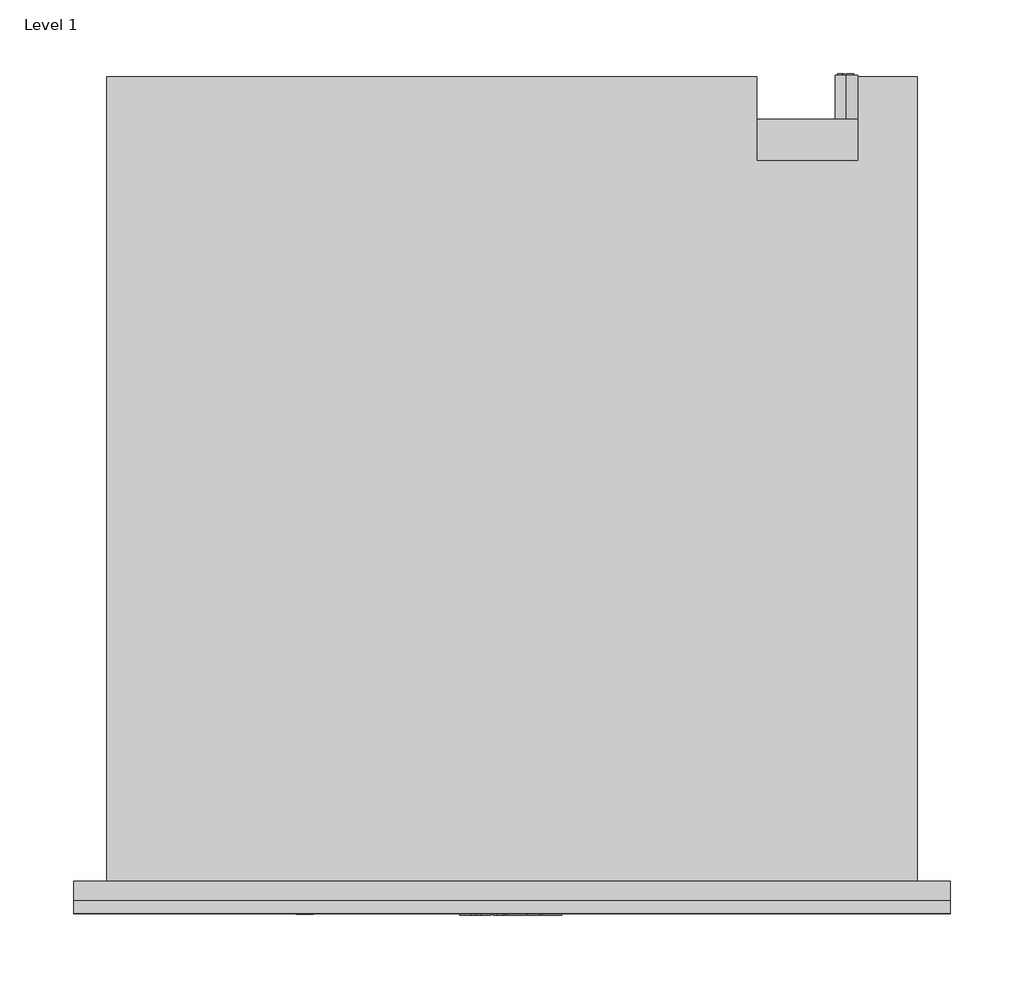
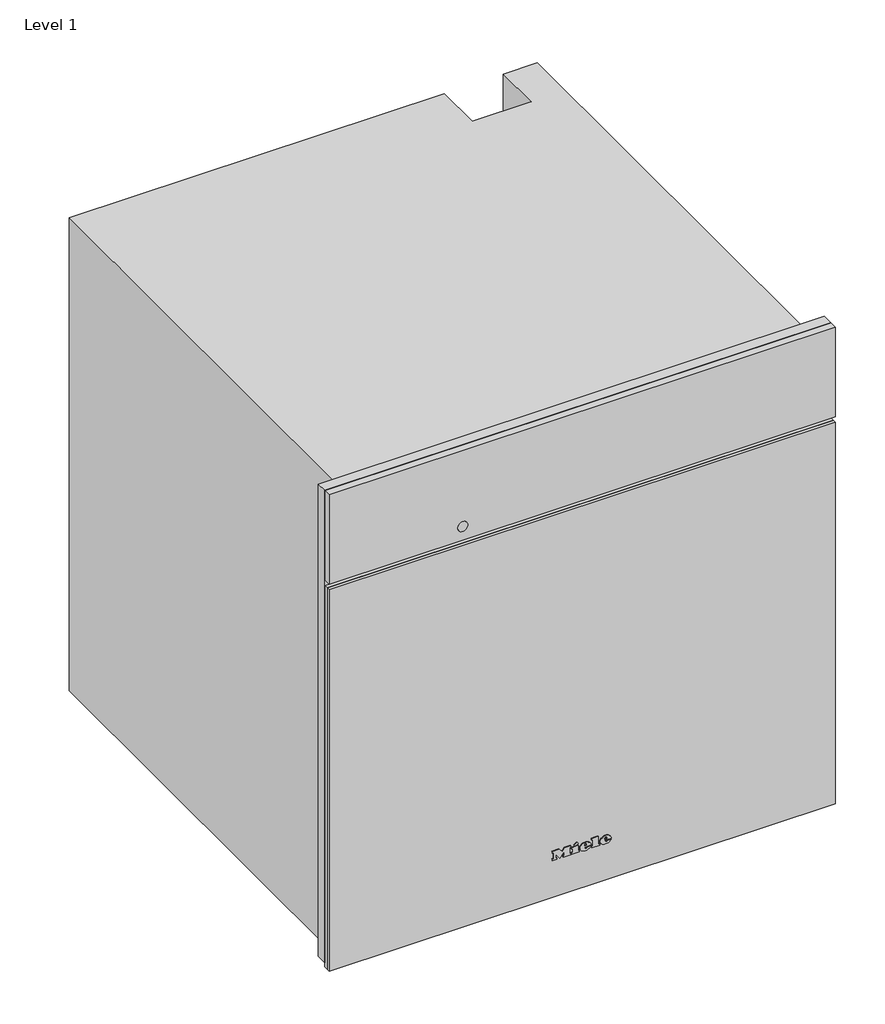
# One storey: 1 proxy.
"""IFC4 building model written with IfcOpenShell, lengths in millimetres."""

import ifcopenshell
import ifcopenshell.guid

model = None  # the IFC model being written
_history = None  # IfcOwnerHistory: only IFC2X3 demands one
_inside = {}  # id of a spatial element -> (the spatial element, [elements in it])
_under = {}  # id of a project, library or spatial element -> (it, [spatial elements below it])
_declared = {}  # id of a project -> (the project, [libraries it declares])
_typed = {}  # id of a type object -> (the type object, [elements of that type])
_made_of = {}  # id of a material, layer set ... -> (it, [elements and type objects made of it])


def new_model(schema):
    """Start an empty IFC model of exactly this schema.

    Asked for "IFC4X3", IfcOpenShell would pick the latest addendum, in which some entities
    have other attributes; the version numbers below select the first issue.
    IFC2X3 requires an IfcOwnerHistory on every rooted entity: one is made here for all.
    """
    global model, _history
    if schema == "IFC4X3":
        model = ifcopenshell.file(schema_version=(4, 3, 0, 0))
    else:
        model = ifcopenshell.file(schema=schema)
    _inside.clear()
    _under.clear()
    _declared.clear()
    _typed.clear()
    _made_of.clear()
    _history = None
    if model.schema == "IFC2X3":
        org = make("IfcOrganization", Name="unknown")
        user = make(
            "IfcPersonAndOrganization",
            ThePerson=make("IfcPerson", FamilyName="unknown"),
            TheOrganization=org,
        )
        app = make(
            "IfcApplication",
            ApplicationDeveloper=org,
            Version="unknown",
            ApplicationFullName="unknown",
            ApplicationIdentifier="unknown",
        )
        _history = make(
            "IfcOwnerHistory",
            OwningUser=user,
            OwningApplication=app,
            ChangeAction="ADDED",
            CreationDate=0,
        )
    return model


def make(cls, **values):
    """One entity of the class cls with the attributes given. An attribute that is None is left unset."""
    return model.create_entity(
        cls, **{name: value for name, value in values.items() if value is not None}
    )


def rooted(cls, **values):
    """An entity with a GlobalId (a new one), such as an element, a storey or a relation."""
    return make(cls, GlobalId=ifcopenshell.guid.new(), OwnerHistory=_history, **values)


def si_unit(unit_type, name, prefix=None):
    """IfcSIUnit, for example si_unit("LENGTHUNIT", "METRE", prefix="MILLI")."""
    return make("IfcSIUnit", UnitType=unit_type, Prefix=prefix, Name=name)


def assignment(units):
    """IfcUnitAssignment: the units of a project."""
    return None if units is None else make("IfcUnitAssignment", Units=units)


def point(xyz):
    """IfcCartesianPoint."""
    return None if xyz is None else make("IfcCartesianPoint", Coordinates=xyz)


def direction(xyz):
    """IfcDirection."""
    return None if xyz is None else make("IfcDirection", DirectionRatios=xyz)


def frame(location, z_axis=None, x_axis=None):
    """IfcAxis2Placement3D, a coordinate frame: its origin and axes. An axis left out is left unset."""
    return make(
        "IfcAxis2Placement3D",
        Location=point(location),
        Axis=direction(z_axis),
        RefDirection=direction(x_axis),
    )


def frame_2d(location, x_axis=None):
    """IfcAxis2Placement2D, a coordinate frame in the plane: its origin and x axis."""
    return make(
        "IfcAxis2Placement2D", Location=point(location), RefDirection=direction(x_axis)
    )


def origin():
    """The frame at (0, 0, 0) with its axes left unset."""
    return frame((0.0, 0.0, 0.0))


def place(relative_to, where):
    """IfcLocalPlacement: puts the frame where relative to a parent placement (None: the world)."""
    return make(
        "IfcLocalPlacement", PlacementRelTo=relative_to, RelativePlacement=where
    )


def context(
    kind, dimensions, precision=None, world=None, true_north=None, identifier=None
):
    """IfcGeometricRepresentationContext, for example the 3D "Model" context."""
    return make(
        "IfcGeometricRepresentationContext",
        ContextIdentifier=identifier,
        ContextType=kind,
        CoordinateSpaceDimension=dimensions,
        Precision=precision,
        WorldCoordinateSystem=world,
        TrueNorth=true_north,
    )


def project(units=None, contexts=None):
    """IfcProject with its units and contexts."""
    return rooted(
        "IfcProject",
        Name="project",
        RepresentationContexts=contexts,
        UnitsInContext=assignment(units),
    )


def spatial(cls, under=None, at=None, **own):
    """A site, building, storey or space (cls), placed at a placement, below another one or the project."""
    s = rooted(cls, ObjectPlacement=at, **own)
    if under is not None:
        _under.setdefault(under.id(), (under, []))[1].append(s)
    return s


def polyline(points):
    """IfcPolyline through the points."""
    return make("IfcPolyline", Points=[point(p) for p in points])


def circle_curve(where, radius):
    """IfcCircle in the frame where."""
    return make("IfcCircle", Position=where, Radius=radius)


def ellipse_curve(where, semi_axis1, semi_axis2):
    """IfcEllipse in the frame where."""
    return make(
        "IfcEllipse", Position=where, SemiAxis1=semi_axis1, SemiAxis2=semi_axis2
    )


def trimmed(basis, trim1, trim2, sense, master):
    """IfcTrimmedCurve: the piece of a basis curve between two trims."""
    return make(
        "IfcTrimmedCurve",
        BasisCurve=basis,
        Trim1=trim1,
        Trim2=trim2,
        SenseAgreement=sense,
        MasterRepresentation=master,
    )


def segment(curve, same_sense, transition):
    """IfcCompositeCurveSegment."""
    return make(
        "IfcCompositeCurveSegment",
        Transition=transition,
        SameSense=same_sense,
        ParentCurve=curve,
    )


def composite_curve(segments, self_intersect=None):
    """IfcCompositeCurve: segments joined end to end."""
    return make("IfcCompositeCurve", Segments=segments, SelfIntersect=self_intersect)


def outline(outer, holes=None, kind="AREA"):
    """IfcArbitraryClosedProfileDef: a profile drawn as a closed curve; with holes, ...WithVoids."""
    if holes is None:
        return make("IfcArbitraryClosedProfileDef", ProfileType=kind, OuterCurve=outer)
    return make(
        "IfcArbitraryProfileDefWithVoids",
        ProfileType=kind,
        OuterCurve=outer,
        InnerCurves=holes,
    )


def extrude(swept, where, along, depth):
    """IfcExtrudedAreaSolid: the profile swept, set in the frame where, extruded along a direction by depth."""
    return make(
        "IfcExtrudedAreaSolid",
        SweptArea=swept,
        Position=where,
        ExtrudedDirection=direction(along),
        Depth=depth,
    )


def faces_of(points, faces, orient=None, outer=None):
    """IfcFace entities. A face is a list of loops; a loop is a list of indices into points, from 0.

    orient and outer hold one flag for each loop. By default every Orientation is true, the
    first loop of a face is its IfcFaceOuterBound and the others are IfcFaceBound.
    """
    made = []
    for i, loops in enumerate(faces):
        bounds = []
        for j, loop in enumerate(loops):
            is_outer = j == 0 if outer is None else outer[i][j]
            bounds.append(
                make(
                    "IfcFaceOuterBound" if is_outer else "IfcFaceBound",
                    Bound=make("IfcPolyLoop", Polygon=[points[k] for k in loop]),
                    Orientation=True if orient is None else orient[i][j],
                )
            )
        made.append(make("IfcFace", Bounds=bounds))
    return made


def faceted_brep(points, faces, orient=None, outer=None, voids=None):
    """IfcFacetedBrep: a solid bounded by flat faces; with voids (closed shells), ...WithVoids."""
    shared = [point(p) for p in points]
    hull = make("IfcClosedShell", CfsFaces=faces_of(shared, faces, orient, outer))
    if voids is None:
        return make("IfcFacetedBrep", Outer=hull)
    return make(
        "IfcFacetedBrepWithVoids",
        Outer=hull,
        Voids=[
            make(cls, CfsFaces=faces_of(shared, fs, o, b)) for cls, fs, o, b in voids
        ],
    )


def shape(context_of_items, identifier, shape_type, items):
    """IfcShapeRepresentation: the items that make up one representation, for example the "Body"."""
    return make(
        "IfcShapeRepresentation",
        ContextOfItems=context_of_items,
        RepresentationIdentifier=identifier,
        RepresentationType=shape_type,
        Items=items,
    )


def source(mapping_origin, context_of_items, identifier, shape_type, items):
    """IfcRepresentationMap: a shape defined once, which mapped items show again and again."""
    return make(
        "IfcRepresentationMap",
        MappingOrigin=mapping_origin,
        MappedRepresentation=shape(context_of_items, identifier, shape_type, items),
    )


def transform(
    local_origin,
    x_axis=None,
    y_axis=None,
    z_axis=None,
    scale=None,
    scale2=None,
    scale3=None,
    uniform=True,
):
    """IfcCartesianTransformationOperator3D, or its non-uniform kind. x_axis, y_axis, z_axis: its Axis1, 2, 3."""
    if uniform:
        return make(
            "IfcCartesianTransformationOperator3D",
            Axis1=direction(x_axis),
            Axis2=direction(y_axis),
            LocalOrigin=point(local_origin),
            Scale=scale,
            Axis3=direction(z_axis),
        )
    return make(
        "IfcCartesianTransformationOperator3DnonUniform",
        Axis1=direction(x_axis),
        Axis2=direction(y_axis),
        LocalOrigin=point(local_origin),
        Scale=scale,
        Axis3=direction(z_axis),
        Scale2=scale2,
        Scale3=scale3,
    )


def mapped(mapping_source, mapping_target):
    """IfcMappedItem: shows the shape of a source again, moved by a transform."""
    return make(
        "IfcMappedItem", MappingSource=mapping_source, MappingTarget=mapping_target
    )


def made_of(thing, what):
    """Note that an element or type object is made of a material, layer set ...; save() writes the relation."""
    if what is not None:
        _made_of.setdefault(what.id(), (what, []))[1].append(thing)
    return thing


def element(
    cls,
    number,
    at=None,
    inside=None,
    cuts=None,
    type_object=None,
    material=None,
    context=None,
    identifier="Body",
    shape_type=None,
    held_by="IfcProductDefinitionShape",
    body=None,
    shapes=None,
    **own,
):
    """One element of the class cls, such as IfcWall. Its Tag is "e" and its number.

    at: its placement. inside: the storey or other place that contains it. cuts: it is an
    opening in that element (IfcRelVoidsElement). A single representation is given by context,
    identifier, shape_type and body (its items); several are given by shapes. held_by: the class
    of the entity that holds the representations. save() writes the other relations.
    """
    e = rooted(cls, Tag="e%d" % number, ObjectPlacement=at, **own)
    if body is not None:
        shapes = [shape(context, identifier, shape_type, body)]
    if shapes is not None:
        e.Representation = make(held_by, Representations=shapes)
    if inside is not None:
        _inside.setdefault(inside.id(), (inside, []))[1].append(e)
    if cuts is not None:
        rooted(
            "IfcRelVoidsElement", RelatingBuildingElement=cuts, RelatedOpeningElement=e
        )
    if type_object is not None:
        _typed.setdefault(type_object.id(), (type_object, []))[1].append(e)
    return made_of(e, material)


def aggregate(whole, parts):
    """IfcRelAggregates: a whole, such as a stair, and the parts it consists of."""
    return rooted("IfcRelAggregates", RelatingObject=whole, RelatedObjects=parts)


def save(model, path):
    """Write the relations noted so far, then the file.

    IfcRelAggregates (storeys below a building ...), IfcRelContainedInSpatialStructure (elements
    in a storey), IfcRelDefinesByType, IfcRelAssociatesMaterial and IfcRelDeclares: one each for
    every whole, place, type object, material and project.
    """
    for whole, parts in _under.values():
        aggregate(whole, parts)
    for where, things in _inside.values():
        rooted(
            "IfcRelContainedInSpatialStructure",
            RelatedElements=things,
            RelatingStructure=where,
        )
    for kind, things in _typed.values():
        rooted("IfcRelDefinesByType", RelatedObjects=things, RelatingType=kind)
    for what, things in _made_of.values():
        rooted("IfcRelAssociatesMaterial", RelatedObjects=things, RelatingMaterial=what)
    for by, libraries in _declared.values():
        rooted("IfcRelDeclares", RelatingContext=by, RelatedDefinitions=libraries)
    model.write(path)


def plane_surface(at):
    """IfcPlane: the flat surface through the origin of the frame at, square to its z axis."""
    return make("IfcPlane", Position=at)


def cylinder_surface(at, radius):
    """IfcCylindricalSurface: all points at the distance radius from the z axis of the frame at."""
    return make("IfcCylindricalSurface", Position=at, Radius=radius)


def revolved_surface(curve, axis_point, axis_direction):
    """IfcSurfaceOfRevolution: the curve turned about the line through axis_point along axis_direction."""
    return make(
        "IfcSurfaceOfRevolution",
        SweptCurve=make("IfcArbitraryOpenProfileDef", ProfileType="CURVE", Curve=curve),
        AxisPosition=make("IfcAxis1Placement", Location=point(axis_point), Axis=direction(axis_direction)),
    )


def extruded_surface(curve, direction_of_extrusion, depth):
    """IfcSurfaceOfLinearExtrusion: the curve pushed along a direction by depth."""
    return make(
        "IfcSurfaceOfLinearExtrusion",
        SweptCurve=make("IfcArbitraryOpenProfileDef", ProfileType="CURVE", Curve=curve),
        ExtrudedDirection=direction(direction_of_extrusion),
        Depth=depth,
    )


def advanced_brep(points, edges, surfaces, faces):
    """IfcAdvancedBrep: a solid bounded by faces that lie on surfaces and meet in shared edges.

    An edge is (start, end): straight between two places in points (the first is 0);
    or (start, end, curve); or (start, end, curve, False) where it runs against its curve.
    A face is (place in surfaces, loops), or (place, loops, False) where it looks against
    its surface's normal. A loop lists edges by number (the first is 1), with a minus sign
    where the edge is run from its end to its start. The first loop is the outer one.
    """
    corners = [point(p) for p in points]
    vertices = [make("IfcVertexPoint", VertexGeometry=c) for c in corners]
    made = []
    for start, end, *more in edges:
        made.append(
            make(
                "IfcEdgeCurve",
                EdgeStart=vertices[start],
                EdgeEnd=vertices[end],
                EdgeGeometry=more[0] if more else make("IfcPolyline", Points=[corners[start], corners[end]]),
                SameSense=more[1] if len(more) > 1 else True,
            )
        )
    hull = []
    for where, loops, *sense in faces:
        bounds = []
        for j, loop in enumerate(loops):
            ring = [make("IfcOrientedEdge", EdgeElement=made[abs(k) - 1], Orientation=k > 0) for k in loop]
            bounds.append(
                make(
                    "IfcFaceOuterBound" if j == 0 else "IfcFaceBound",
                    Bound=make("IfcEdgeLoop", EdgeList=ring),
                    Orientation=True,
                )
            )
        hull.append(make("IfcAdvancedFace", Bounds=bounds, FaceSurface=surfaces[where], SameSense=sense[0] if sense else True))
    return make("IfcAdvancedBrep", Outer=make("IfcClosedShell", CfsFaces=hull))


def specialty_equipment_f0ab52e3(model_context):
    return source(origin(), model_context, "Body", "SolidModel", [
        extrude(outline(polyline([(596.0, 297.5), (596.0, -297.5), (9.0, -297.5), (9.0, 297.5), (596.0, 297.5)]), holes=[polyline([(485.0, -272.5), (485.0, 272.5), (27.0, 272.5), (27.0, -272.5), (485.0, -272.5)])]), frame((0.0, -13.0, 0.0), z_axis=(0.0, 1.0, 0.0), x_axis=(0.0, 0.0, 1.0)), (0.0, 0.0, 1.0), 13.0),
        advanced_brep(
        [(227.0, 547.0, 396.5), (227.0, 547.0, 381.5), (221.4098301, 547.0, 384.0), (225.5, 547.0, 384.0), (225.5, 547.0, 394.0), (224.4955303, 547.0, 394.0), (224.4955303, 547.0, 385.0), (221.0315043, 547.0, 385.0), (221.0315043, 547.0, 384.4582978), (232.0, 547.0, 384.0), (232.0, 547.0, 394.0), (227.0, 547.0, 394.0), (227.0, 547.0, 393.0), (231.0, 547.0, 393.0), (231.0, 547.0, 389.5), (228.0, 547.0, 389.5), (228.0, 547.0, 388.5), (231.0, 547.0, 388.5), (231.0, 547.0, 385.0), (227.0, 547.0, 385.0), (227.0, 547.0, 384.0), (227.0, 517.0, 381.5), (227.0, 517.0, 396.5), (232.0, 548.0, 394.0), (232.0, 548.0, 384.0), (227.0, 548.0, 384.0), (227.0, 548.0, 385.0), (231.0, 548.0, 385.0), (231.0, 548.0, 388.5), (228.0, 548.0, 388.5), (228.0, 548.0, 389.5), (231.0, 548.0, 389.5), (231.0, 548.0, 393.0), (227.0, 548.0, 393.0), (227.0, 548.0, 394.0), (225.5, 548.0, 384.0), (221.0315043, 548.0, 384.0), (221.0315043, 548.0, 385.0), (224.4955303, 548.0, 385.0), (224.4955303, 548.0, 394.0), (225.5, 548.0, 394.0), (221.0315043, 547.0, 384.0)],
        [
            (0, 1, circle_curve(frame((227.0, 547.0, 389.0), z_axis=(0.0, 1.0, 0.0), x_axis=(0.0, 0.0, 1.0)), 7.5)),
            (1, 2, circle_curve(frame((227.0, 547.0, 389.0), z_axis=(0.0, 1.0, 0.0), x_axis=(0.0, 0.0, 1.0)), 7.5)),
            (2, 3),
            (3, 4),
            (4, 5),
            (5, 6),
            (6, 7),
            (7, 8),
            (8, 0, circle_curve(frame((227.0, 547.0, 389.0), z_axis=(0.0, 1.0, 0.0), x_axis=(0.0, 0.0, 1.0)), 7.5)),
            (9, 10),
            (10, 11),
            (11, 12),
            (12, 13),
            (13, 14),
            (14, 15),
            (15, 16),
            (16, 17),
            (17, 18),
            (18, 19),
            (19, 20),
            (20, 9),
            (21, 22, circle_curve(frame((227.0, 517.0, 389.0), z_axis=(0.0, -1.0, 0.0), x_axis=(0.0, 0.0, 1.0)), 7.5)),
            (22, 21, circle_curve(frame((227.0, 517.0, 389.0), z_axis=(0.0, -1.0, 0.0), x_axis=(0.0, 0.0, 1.0)), 7.5)),
            (0, 22),
            (21, 1),
            (8, 2, circle_curve(frame((227.0, 547.0, 389.0), z_axis=(0.0, -1.0, 0.0), x_axis=(0.0, 0.0, 1.0)), 7.5)),
            (23, 24),
            (24, 25),
            (25, 26),
            (26, 27),
            (27, 28),
            (28, 29),
            (29, 30),
            (30, 31),
            (31, 32),
            (32, 33),
            (33, 34),
            (34, 23),
            (35, 36),
            (36, 37),
            (37, 38),
            (38, 39),
            (39, 40),
            (40, 35),
            (8, 41),
            (41, 2),
            (23, 10),
            (9, 24),
            (20, 25),
            (19, 26),
            (18, 27),
            (17, 28),
            (16, 29),
            (15, 30),
            (14, 31),
            (13, 32),
            (12, 33),
            (11, 34),
            (35, 3),
            (41, 36),
            (7, 37),
            (6, 38),
            (5, 39),
            (4, 40),
        ],
        [
            plane_surface(frame((227.0, 547.0, 396.5), z_axis=(0.0, 1.0, 0.0), x_axis=(1.0, 0.0, 0.0))),
            plane_surface(frame((227.0, 517.0, 396.5), z_axis=(0.0, -1.0, 0.0), x_axis=(-1.0, 0.0, 0.0))),
            cylinder_surface(frame((227.0, 547.0, 389.0), z_axis=(0.0, -1.0, 0.0), x_axis=(0.0, 0.0, 1.0)), 7.5),
            plane_surface(frame((232.0, 548.0, 394.0), z_axis=(0.0, 1.0, 0.0), x_axis=(0.0, 0.0, -1.0))),
            plane_surface(frame((232.0, 547.0, 394.0), z_axis=(0.0, -1.0, 0.0), x_axis=(0.0, 0.0, 1.0))),
            plane_surface(frame((232.0, 548.0, 394.0), z_axis=(1.0, 0.0, 0.0), x_axis=(0.0, -1.0, 0.0))),
            plane_surface(frame((232.0, 548.0, 384.0), z_axis=(0.0, 0.0, -1.0), x_axis=(0.0, -1.0, 0.0))),
            plane_surface(frame((227.0, 548.0, 384.0), z_axis=(-1.0, 0.0, 0.0), x_axis=(0.0, -1.0, 0.0))),
            plane_surface(frame((227.0, 548.0, 385.0), z_axis=(0.0, 0.0, 1.0), x_axis=(0.0, -1.0, 0.0))),
            plane_surface(frame((231.0, 548.0, 385.0), z_axis=(-1.0, 0.0, 0.0), x_axis=(0.0, -1.0, 0.0))),
            plane_surface(frame((231.0, 548.0, 388.5), z_axis=(0.0, 0.0, -1.0), x_axis=(0.0, -1.0, 0.0))),
            plane_surface(frame((228.0, 548.0, 388.5), z_axis=(-1.0, 0.0, 0.0), x_axis=(0.0, -1.0, 0.0))),
            plane_surface(frame((228.0, 548.0, 389.5), z_axis=(0.0, 0.0, 1.0), x_axis=(0.0, -1.0, 0.0))),
            plane_surface(frame((231.0, 548.0, 389.5), z_axis=(-1.0, 0.0, 0.0), x_axis=(0.0, -1.0, 0.0))),
            plane_surface(frame((231.0, 548.0, 393.0), z_axis=(0.0, 0.0, -1.0), x_axis=(0.0, -1.0, 0.0))),
            plane_surface(frame((227.0, 548.0, 393.0), z_axis=(-1.0, 0.0, 0.0), x_axis=(0.0, -1.0, 0.0))),
            plane_surface(frame((227.0, 548.0, 394.0), z_axis=(0.0, 0.0, 1.0), x_axis=(0.0, -1.0, 0.0))),
            plane_surface(frame((225.5, 548.0, 384.0), z_axis=(0.0, 0.0, -1.0), x_axis=(0.0, -1.0, 0.0))),
            plane_surface(frame((221.0315043, 548.0, 384.0), z_axis=(-1.0, 0.0, 0.0), x_axis=(0.0, -1.0, 0.0))),
            plane_surface(frame((221.0315043, 548.0, 385.0), z_axis=(0.0, 0.0, 1.0), x_axis=(0.0, -1.0, 0.0))),
            plane_surface(frame((224.4955303, 548.0, 385.0), z_axis=(-1.0, 0.0, 0.0), x_axis=(0.0, -1.0, 0.0))),
            plane_surface(frame((224.4955303, 548.0, 394.0), z_axis=(0.0, 0.0, 1.0), x_axis=(0.0, -1.0, 0.0))),
            plane_surface(frame((225.5, 548.0, 394.0), z_axis=(1.0, 0.0, 0.0), x_axis=(0.0, -1.0, 0.0))),
        ],
        [
            (0, [[1, 2, 3, 4, 5, 6, 7, 8, 9], [10, 11, 12, 13, 14, 15, 16, 17, 18, 19, 20, 21]]),
            (1, [[22, 23]]),
            (2, [[-1, 24, -22, 25]]),
            (2, [[-23, -24, -9, 26, -2, -25]]),
            (3, [[27, 28, 29, 30, 31, 32, 33, 34, 35, 36, 37, 38]]),
            (3, [[39, 40, 41, 42, 43, 44]]),
            (4, [[45, 46, -26]]),
            (5, [[-27, 47, -10, 48]]),
            (6, [[-28, -48, -21, 49]]),
            (7, [[-29, -49, -20, 50]]),
            (8, [[-30, -50, -19, 51]]),
            (9, [[-31, -51, -18, 52]]),
            (10, [[-32, -52, -17, 53]]),
            (11, [[-33, -53, -16, 54]]),
            (12, [[-34, -54, -15, 55]]),
            (13, [[-35, -55, -14, 56]]),
            (14, [[-36, -56, -13, 57]]),
            (15, [[-37, -57, -12, 58]]),
            (16, [[-38, -58, -11, -47]]),
            (17, [[-39, 59, -3, -46, 60]]),
            (18, [[-40, -60, -45, -8, 61]]),
            (19, [[-41, -61, -7, 62]]),
            (20, [[-42, -62, -6, 63]]),
            (21, [[-43, -63, -5, 64]]),
            (22, [[-44, -64, -4, -59]]),
        ],
    ),
        faceted_brep([(-275.0, 546.0, 0.0), (-275.0, 546.0, 588.0), (166.0, 546.0, 588.0), (166.0, 546.0, 0.0), (235.0, 546.0, 588.0), (275.0, 546.0, 588.0), (275.0, 546.0, 478.0), (235.0, 546.0, 478.0), (275.0, 0.0, 588.0), (-275.0, 0.0, 588.0), (-275.0, 0.0, 0.0), (275.0, 0.0, 0.0), (-272.5, 0.0, 485.0), (272.5, 0.0, 485.0), (272.5, 0.0, 27.0), (-272.5, 0.0, 27.0), (235.0, 489.0, 588.0), (166.0, 489.0, 588.0), (166.0, 517.0, 0.0), (275.0, 517.0, 0.0), (275.0, 517.0, 478.0), (272.5, 17.0, 485.0), (-272.5, 17.0, 485.0), (-272.5, 17.0, 27.0), (272.5, 17.0, 27.0), (231.0, 17.0, 409.0), (231.0, 17.0, 61.0), (-231.0, 17.0, 61.0), (-231.0, 17.0, 409.0), (231.0, 411.0, 409.0), (-231.0, 411.0, 409.0), (-231.0, 411.0, 61.0), (231.0, 411.0, 61.0), (235.0, 489.0, 477.0), (166.0, 489.0, 477.0), (166.0, 517.0, 477.0), (235.0, 517.0, 477.0), (235.0, 517.0, 478.0)], [[[0, 1, 2, 3]], [[4, 5, 6, 7]], [[8, 9, 10, 11], [12, 13, 14, 15]], [[9, 8, 5, 4, 16, 17, 2, 1]], [[1, 0, 10, 9]], [[11, 10, 0, 3, 18, 19]], [[8, 11, 19, 20, 6, 5]], [[21, 22, 23, 24], [25, 26, 27, 28]], [[22, 21, 13, 12]], [[23, 22, 12, 15]], [[24, 23, 15, 14]], [[21, 24, 14, 13]], [[29, 30, 31, 32]], [[29, 32, 26, 25]], [[32, 31, 27, 26]], [[31, 30, 28, 27]], [[30, 29, 25, 28]], [[16, 33, 34, 17]], [[17, 34, 35, 18, 3, 2]], [[34, 33, 36, 35]], [[33, 16, 4, 7, 37, 36]], [[37, 20, 19, 18, 35, 36]], [[20, 37, 7, 6]]]),
        advanced_brep(
        [(26.2998, -23.0, 52.7018), (26.2998, -23.0, 53.8532), (33.9264, -23.0, 53.8532), (20.6568, -23.0, 53.8532), (23.7918, -23.0, 50.0), (33.7326, -23.0, 52.7018), (30.2898, -23.0, 52.7018), (27.5766, -23.0, 51.425), (26.2998, -23.0, 55.3124), (26.2998, -23.0, 56.555), (28.2492, -23.0, 56.555), (28.2492, -23.0, 55.3124), (26.2998, -22.0, 52.7018), (27.5766, -22.0, 51.425), (30.2898, -22.0, 52.7018), (33.7326, -22.0, 52.7018), (23.7918, -22.0, 50.0), (20.6568, -22.0, 53.8532), (33.9264, -22.0, 53.8532), (26.2998, -22.0, 53.8532), (26.2998, -22.0, 55.3124), (28.2492, -22.0, 55.3124), (28.2492, -22.0, 56.555), (26.2998, -22.0, 56.555)],
        [
            (0, 1),
            (1, 2),
            (2, 3, ellipse_curve(frame((27.2916, -23.0, 53.8532), z_axis=(0.0, -1.0, 0.0), x_axis=(-1.0, 0.0, 0.0)), 6.6348, 5.4834)),
            (3, 4, circle_curve(frame((25.0686622, -23.0, 54.2408), z_axis=(0.0, -1.0, 0.0), x_axis=(0.0, 0.0, -1.0)), 4.4288556)),
            (4, 5, circle_curve(frame((27.1587808, -23.0, 57.2504), z_axis=(0.0, -1.0, 0.0), x_axis=(0.0, 0.0, -1.0)), 7.9940516)),
            (5, 6),
            (6, 7, circle_curve(frame((28.1338588, -23.0, 53.762), z_axis=(0.0, 1.0, 0.0), x_axis=(0.0, 0.0, -1.0)), 2.4025208)),
            (7, 0, circle_curve(frame((27.5766, -23.0, 52.7018), z_axis=(0.0, 1.0, 0.0), x_axis=(0.0, 0.0, -1.0)), 1.2768)),
            (8, 9),
            (9, 10, circle_curve(frame((27.2745, -23.0, 56.555), z_axis=(0.0, 1.0, 0.0), x_axis=(0.0, 0.0, -1.0)), 0.9747)),
            (10, 11),
            (11, 8),
            (12, 13, circle_curve(frame((27.5766, -22.0, 52.7018), z_axis=(0.0, -1.0, 0.0), x_axis=(0.0, 0.0, -1.0)), 1.2768)),
            (13, 14, circle_curve(frame((28.1338588, -22.0, 53.762), z_axis=(0.0, -1.0, 0.0), x_axis=(0.0, 0.0, -1.0)), 2.4025208)),
            (14, 15),
            (15, 16, circle_curve(frame((27.1587808, -22.0, 57.2504), z_axis=(0.0, 1.0, 0.0), x_axis=(0.0, 0.0, -1.0)), 7.9940516)),
            (16, 17, circle_curve(frame((25.0686622, -22.0, 54.2408), z_axis=(0.0, 1.0, 0.0), x_axis=(0.0, 0.0, -1.0)), 4.4288556)),
            (17, 18, ellipse_curve(frame((27.2916, -22.0, 53.8532), z_axis=(0.0, 1.0, 0.0), x_axis=(-1.0, 0.0, 0.0)), 6.6348, 5.4834)),
            (18, 19),
            (19, 12),
            (20, 21),
            (21, 22),
            (22, 23, circle_curve(frame((27.2745, -22.0, 56.555), z_axis=(0.0, -1.0, 0.0), x_axis=(0.0, 0.0, -1.0)), 0.9747)),
            (23, 20),
            (0, 12),
            (19, 1),
            (18, 2),
            (5, 15),
            (14, 6),
            (17, 3),
            (13, 7),
            (16, 4),
            (8, 20),
            (23, 9),
            (22, 10),
            (21, 11),
        ],
        [
            plane_surface(frame((26.2998, -23.0, 53.8532), z_axis=(0.0, -1.0, 0.0), x_axis=(0.0, 0.0, 1.0))),
            plane_surface(frame((26.2998, -22.0, 53.8532), z_axis=(0.0, 1.0, 0.0), x_axis=(0.0, 0.0, -1.0))),
            plane_surface(frame((26.2998, -23.0, 52.7018), z_axis=(1.0, 0.0, 0.0), x_axis=(0.0, 1.0, 0.0))),
            plane_surface(frame((26.2998, -23.0, 53.8532), z_axis=(0.0, 0.0, -1.0), x_axis=(0.0, 1.0, 0.0))),
            plane_surface(frame((33.7326, -23.0, 52.7018), z_axis=(0.0, 0.0, 1.0), x_axis=(0.0, 1.0, 0.0))),
            extruded_surface(trimmed(ellipse_curve(frame((27.2916, -21.0, 53.8532), z_axis=(0.0, -1.0, 0.0), x_axis=(-1.0, 0.0, 0.0)), 6.6348, 5.4834), [point((33.9264, -21.0, 53.8532))], [point((20.6568, -21.0, 53.8532))], True, "CARTESIAN"), (0.0, -1.0, 0.0), 1.0),
            revolved_surface(polyline([(28.1338588, -22.0, 51.3594792), (28.1338588, -23.0, 51.3594792)]), (28.1338588, -22.0, 53.762), (0.0, 1.0, 0.0)),
            revolved_surface(polyline([(27.5766, -22.0, 51.425), (27.5766, -23.0, 51.425)]), (27.5766, -22.0, 52.7018), (0.0, 1.0, 0.0)),
            cylinder_surface(frame((25.0686622, -22.0, 54.2408), z_axis=(0.0, -1.0, 0.0), x_axis=(0.0, 0.0, -1.0)), 4.4288556),
            cylinder_surface(frame((27.1587808, -22.0, 57.2504), z_axis=(0.0, -1.0, 0.0), x_axis=(0.0, 0.0, -1.0)), 7.9940516),
            plane_surface(frame((26.2998, -23.0, 55.3124), z_axis=(1.0, 0.0, 0.0), x_axis=(0.0, 1.0, 0.0))),
            revolved_surface(polyline([(27.2745, -22.0, 55.5803), (27.2745, -23.0, 55.5803)]), (27.2745, -22.0, 56.555), (0.0, 1.0, 0.0)),
            plane_surface(frame((28.2492, -23.0, 56.555), z_axis=(-1.0, 0.0, 0.0), x_axis=(0.0, 1.0, 0.0))),
            plane_surface(frame((28.2492, -23.0, 55.3124), z_axis=(0.0, 0.0, 1.0), x_axis=(0.0, 1.0, 0.0))),
        ],
        [
            (0, [[1, 2, 3, 4, 5, 6, 7, 8], [9, 10, 11, 12]]),
            (1, [[13, 14, 15, 16, 17, 18, 19, 20], [21, 22, 23, 24]]),
            (2, [[-1, 25, -20, 26]]),
            (3, [[-2, -26, -19, 27]]),
            (4, [[-6, 28, -15, 29]]),
            (5, [[-3, -27, -18, 30]]),
            (6, [[-7, -29, -14, 31]]),
            (7, [[-8, -31, -13, -25]]),
            (8, [[-4, -30, -17, 32]]),
            (9, [[-5, -32, -16, -28]]),
            (10, [[-9, 33, -24, 34]]),
            (11, [[-10, -34, -23, 35]]),
            (12, [[-11, -35, -22, 36]]),
            (13, [[-12, -36, -21, -33]]),
        ],
    ),
        advanced_brep(
        [(2.508, -23.0, 52.7018), (2.508, -23.0, 53.8532), (10.1346, -23.0, 53.8532), (-3.135, -23.0, 53.8532), (0.0, -23.0, 50.0), (9.9408, -23.0, 52.7018), (6.498, -23.0, 52.7018), (3.7848, -23.0, 51.425), (2.508, -23.0, 55.3124), (2.508, -23.0, 56.555), (4.4574, -23.0, 56.555), (4.4574, -23.0, 55.3124), (2.508, -22.0, 52.7018), (3.7848, -22.0, 51.425), (6.498, -22.0, 52.7018), (9.9408, -22.0, 52.7018), (0.0, -22.0, 50.0), (-3.135, -22.0, 53.8532), (10.1346, -22.0, 53.8532), (2.508, -22.0, 53.8532), (2.508, -22.0, 55.3124), (4.4574, -22.0, 55.3124), (4.4574, -22.0, 56.555), (2.508, -22.0, 56.555)],
        [
            (0, 1),
            (1, 2),
            (2, 3, ellipse_curve(frame((3.4998, -23.0, 53.8532), z_axis=(0.0, -1.0, 0.0), x_axis=(-1.0, 0.0, 0.0)), 6.6348, 5.4834)),
            (3, 4, circle_curve(frame((1.2768622, -23.0, 54.2408), z_axis=(0.0, -1.0, 0.0), x_axis=(0.0, 0.0, -1.0)), 4.4288556)),
            (4, 5, circle_curve(frame((3.3669808, -23.0, 57.2504), z_axis=(0.0, -1.0, 0.0), x_axis=(0.0, 0.0, -1.0)), 7.9940516)),
            (5, 6),
            (6, 7, circle_curve(frame((4.3420588, -23.0, 53.762), z_axis=(0.0, 1.0, 0.0), x_axis=(0.0, 0.0, -1.0)), 2.4025208)),
            (7, 0, circle_curve(frame((3.7848, -23.0, 52.7018), z_axis=(0.0, 1.0, 0.0), x_axis=(0.0, 0.0, -1.0)), 1.2768)),
            (8, 9),
            (9, 10, circle_curve(frame((3.4827, -23.0, 56.555), z_axis=(0.0, 1.0, 0.0), x_axis=(0.0, 0.0, -1.0)), 0.9747)),
            (10, 11),
            (11, 8),
            (12, 13, circle_curve(frame((3.7848, -22.0, 52.7018), z_axis=(0.0, -1.0, 0.0), x_axis=(0.0, 0.0, -1.0)), 1.2768)),
            (13, 14, circle_curve(frame((4.3420588, -22.0, 53.762), z_axis=(0.0, -1.0, 0.0), x_axis=(0.0, 0.0, -1.0)), 2.4025208)),
            (14, 15),
            (15, 16, circle_curve(frame((3.3669808, -22.0, 57.2504), z_axis=(0.0, 1.0, 0.0), x_axis=(0.0, 0.0, -1.0)), 7.9940516)),
            (16, 17, circle_curve(frame((1.2768622, -22.0, 54.2408), z_axis=(0.0, 1.0, 0.0), x_axis=(0.0, 0.0, -1.0)), 4.4288556)),
            (17, 18, ellipse_curve(frame((3.4998, -22.0, 53.8532), z_axis=(0.0, 1.0, 0.0), x_axis=(-1.0, 0.0, 0.0)), 6.6348, 5.4834)),
            (18, 19),
            (19, 12),
            (20, 21),
            (21, 22),
            (22, 23, circle_curve(frame((3.4827, -22.0, 56.555), z_axis=(0.0, -1.0, 0.0), x_axis=(0.0, 0.0, -1.0)), 0.9747)),
            (23, 20),
            (0, 12),
            (19, 1),
            (18, 2),
            (5, 15),
            (14, 6),
            (17, 3),
            (13, 7),
            (16, 4),
            (8, 20),
            (23, 9),
            (22, 10),
            (21, 11),
        ],
        [
            plane_surface(frame((2.508, -23.0, 53.8532), z_axis=(0.0, -1.0, 0.0), x_axis=(0.0, 0.0, 1.0))),
            plane_surface(frame((2.508, -22.0, 53.8532), z_axis=(0.0, 1.0, 0.0), x_axis=(0.0, 0.0, -1.0))),
            plane_surface(frame((2.508, -23.0, 52.7018), z_axis=(1.0, 0.0, 0.0), x_axis=(0.0, 1.0, 0.0))),
            plane_surface(frame((2.508, -23.0, 53.8532), z_axis=(0.0, 0.0, -1.0), x_axis=(0.0, 1.0, 0.0))),
            plane_surface(frame((9.9408, -23.0, 52.7018), z_axis=(0.0, 0.0, 1.0), x_axis=(0.0, 1.0, 0.0))),
            extruded_surface(trimmed(ellipse_curve(frame((3.4998, -21.0, 53.8532), z_axis=(0.0, -1.0, 0.0), x_axis=(-1.0, 0.0, 0.0)), 6.6348, 5.4834), [point((10.1346, -21.0, 53.8532))], [point((-3.135, -21.0, 53.8532))], True, "CARTESIAN"), (0.0, -1.0, 0.0), 1.0),
            revolved_surface(polyline([(4.3420588, -22.0, 51.3594792), (4.3420588, -23.0, 51.3594792)]), (4.3420588, -22.0, 53.762), (0.0, 1.0, 0.0)),
            revolved_surface(polyline([(3.7848, -22.0, 51.425), (3.7848, -23.0, 51.425)]), (3.7848, -22.0, 52.7018), (0.0, 1.0, 0.0)),
            cylinder_surface(frame((1.2768622, -22.0, 54.2408), z_axis=(0.0, -1.0, 0.0), x_axis=(0.0, 0.0, -1.0)), 4.4288556),
            cylinder_surface(frame((3.3669808, -22.0, 57.2504), z_axis=(0.0, -1.0, 0.0), x_axis=(0.0, 0.0, -1.0)), 7.9940516),
            plane_surface(frame((2.508, -23.0, 55.3124), z_axis=(1.0, 0.0, 0.0), x_axis=(0.0, 1.0, 0.0))),
            revolved_surface(polyline([(3.4827, -22.0, 55.5803), (3.4827, -23.0, 55.5803)]), (3.4827, -22.0, 56.555), (0.0, 1.0, 0.0)),
            plane_surface(frame((4.4574, -23.0, 56.555), z_axis=(-1.0, 0.0, 0.0), x_axis=(0.0, 1.0, 0.0))),
            plane_surface(frame((4.4574, -23.0, 55.3124), z_axis=(0.0, 0.0, 1.0), x_axis=(0.0, 1.0, 0.0))),
        ],
        [
            (0, [[1, 2, 3, 4, 5, 6, 7, 8], [9, 10, 11, 12]]),
            (1, [[13, 14, 15, 16, 17, 18, 19, 20], [21, 22, 23, 24]]),
            (2, [[-1, 25, -20, 26]]),
            (3, [[-2, -26, -19, 27]]),
            (4, [[-6, 28, -15, 29]]),
            (5, [[-3, -27, -18, 30]]),
            (6, [[-7, -29, -14, 31]]),
            (7, [[-8, -31, -13, -25]]),
            (8, [[-4, -30, -17, 32]]),
            (9, [[-5, -32, -16, -28]]),
            (10, [[-9, 33, -24, 34]]),
            (11, [[-10, -34, -23, 35]]),
            (12, [[-11, -35, -22, 36]]),
            (13, [[-12, -36, -21, -33]]),
        ],
    ),
        extrude(outline(polyline([(60.7274, -9.9522), (58.8806, -9.0858), (60.6818, -5.2212), (62.5286, -6.0762), (60.7274, -9.9522)])), frame((0.0, -23.0, 0.0), z_axis=(0.0, 1.0, 0.0), x_axis=(0.0, 0.0, 1.0)), (0.0, 0.0, 1.0), 1.0),
        extrude(outline(polyline([(58.6298, -12.768), (56.5892, -12.768), (56.5892, -11.4114), (51.9152, -11.4114), (51.9152, -12.768), (50.0, -12.768), (50.0, -3.7734), (51.9152, -3.7734), (51.9152, -5.0958), (58.6298, -5.0958), (58.6298, -12.768)])), frame((0.0, -23.0, 0.0), z_axis=(0.0, 1.0, 0.0), x_axis=(0.0, 0.0, 1.0)), (0.0, 0.0, 1.0), 1.0),
        extrude(outline(polyline([(59.5418, 10.773), (59.5418, 12.141), (51.9152, 12.141), (51.9152, 10.773), (50.0, 10.773), (50.0, 20.0184), (51.9152, 20.0184), (51.9152, 18.6162), (61.4, 18.6162), (61.4, 10.773), (59.5418, 10.773)])), frame((0.0, -23.0, 0.0), z_axis=(0.0, 1.0, 0.0), x_axis=(0.0, 0.0, 1.0)), (0.0, 0.0, 1.0), 1.0),
        extrude(outline(polyline([(59.5418, -35.4882), (59.5418, -34.1088), (51.9152, -34.1088), (51.9152, -35.4882), (50.0, -35.4882), (50.0, -30.4722), (51.9152, -30.4722), (51.9152, -31.8402), (56.7429247, -31.8402), (50.0, -26.7444), (56.9402223, -21.6258), (51.9152, -21.6258), (51.9152, -23.028), (50.0, -23.028), (50.0, -13.9308), (51.9152, -13.9308), (51.9152, -15.3786), (59.5418, -15.3786), (59.5418, -13.9308), (61.4, -13.9308), (61.4, -20.8734), (57.125, -24.2022), (61.4, -27.5424), (61.4, -35.4882), (59.5418, -35.4882)])), frame((0.0, -23.0, 0.0), z_axis=(0.0, 1.0, 0.0), x_axis=(0.0, 0.0, 1.0)), (0.0, 0.0, 1.0), 1.0),
        extrude(outline(polyline([(297.5, -22.0), (-297.5, -22.0), (-297.5, -13.0), (297.5, -13.0), (297.5, -22.0)])), frame((0.0, 0.0, 485.0), z_axis=(0.0, 0.0, 1.0), x_axis=(1.0, 0.0, 0.0)), (0.0, 0.0, 1.0), 111.0),
        extrude(outline(composite_curve([segment(trimmed(circle_curve(frame_2d((502.0, -140.5745637)), 6.0), [point((502.0, -146.5745637))], [point((502.0, -134.5745637))], False, "CARTESIAN"), True, "CONTINUOUS"), segment(trimmed(circle_curve(frame_2d((502.0, -140.5745637)), 6.0), [point((502.0, -134.5745637))], [point((502.0, -146.5745637))], False, "CARTESIAN"), True, "CONTINUOUS")], self_intersect=False)), frame((0.0, -22.5, 0.0), z_axis=(0.0, 1.0, 0.0), x_axis=(0.0, 0.0, 1.0)), (0.0, 0.0, 1.0), 1.0),
        extrude(outline(polyline([(297.5, -18.0), (-297.5, -18.0), (-297.5, -13.0), (297.5, -13.0), (297.5, -18.0)])), frame((0.0, 0.0, 4.0), z_axis=(0.0, 0.0, 1.0), x_axis=(1.0, 0.0, 0.0)), (0.0, 0.0, 1.0), 474.0),
        extrude(outline(polyline([(-297.5, -18.0), (297.5, -18.0), (297.5, -22.0), (-297.5, -22.0), (-297.5, -18.0)])), frame((0.0, 0.0, 4.0), z_axis=(0.0, 0.0, 1.0), x_axis=(1.0, 0.0, 0.0)), (0.0, 0.0, 1.0), 474.0),
    ])


model = new_model("IFC4")

# Units and contexts
model_context = context("Model", 3, world=origin())
ifc_project = project(units=[si_unit("LENGTHUNIT", "METRE", prefix="MILLI")], contexts=[model_context])

# Site, building, storey
site = spatial("IfcSite", under=ifc_project)
building = spatial("IfcBuilding", under=site)
storey = spatial("IfcBuildingStorey", under=building, Name="Level 1", Elevation=0.0)

# Proxy
placement = place(None, origin())
specialty_equipment_shape = specialty_equipment_f0ab52e3(model_context)
element("IfcBuildingElementProxy", 1, Name="11107280_D_DGC7860X_OBSW : 23786063_D_11107280_DGC7860X_OBSW", ObjectType="11107280_D_DGC7860X_OBSW : 23786063_D_11107280_DGC7860X_OBSW", at=placement, inside=storey, context=model_context, shape_type="MappedRepresentation", body=[
    mapped(specialty_equipment_shape, transform((0.0, 0.0, 0.0), x_axis=(1.0, 0.0, 0.0), y_axis=(0.0, 1.0, 0.0), z_axis=(0.0, 0.0, 1.0))),
])

save(model, "model.ifc")
